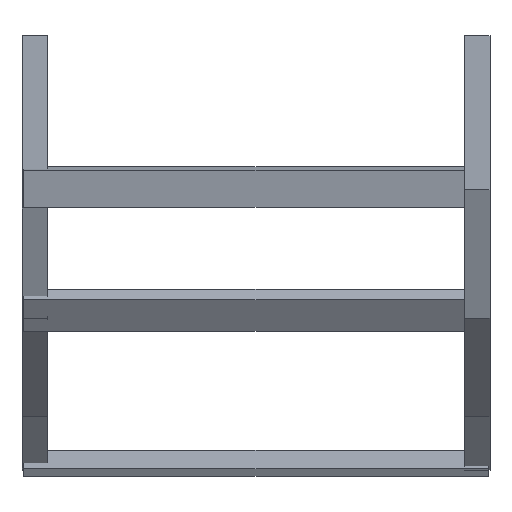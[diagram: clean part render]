
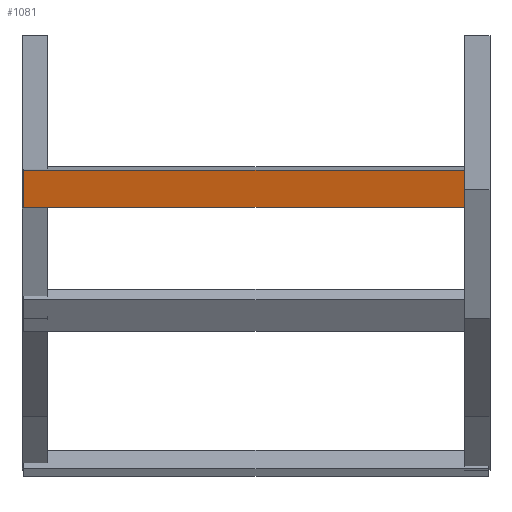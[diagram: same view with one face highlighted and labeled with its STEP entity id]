
A CAD part, front view. The second image highlights one B-rep face of the part: STEP entity #1081.
In plain terms, the highlighted planar face has unit normal (0, -0.981, -0.195) as drawn and (0, -1, 0) by its records, which use the part's own axes.
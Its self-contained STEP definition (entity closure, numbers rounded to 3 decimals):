
#14 = CARTESIAN_POINT ( 'NONE',  ( 248., 0., 20.25 ) ) ;
#68 = DIRECTION ( 'NONE',  ( 0., 0., 1. ) ) ;
#202 = EDGE_LOOP ( 'NONE', ( #1325, #1043, #554, #1566 ) ) ;
#238 = CARTESIAN_POINT ( 'NONE',  ( -248., 0., 20.25 ) ) ;
#240 = PLANE ( 'NONE',  #265 ) ;
#247 = DIRECTION ( 'NONE',  ( 0., 1., 0. ) ) ;
#265 = AXIS2_PLACEMENT_3D ( 'NONE', #1559, #247, #68 ) ;
#326 = VECTOR ( 'NONE', #831, 1000. ) ;
#379 = DIRECTION ( 'NONE',  ( -1., 0., 0. ) ) ;
#382 = FACE_OUTER_BOUND ( 'NONE', #202, .T. ) ;
#447 = LINE ( 'NONE', #1565, #326 ) ;
#552 = DIRECTION ( 'NONE',  ( -1., 0., 0. ) ) ;
#554 = ORIENTED_EDGE ( 'NONE', *, *, #641, .F. ) ;
#641 = EDGE_CURVE ( 'NONE', #1297, #1562, #1589, .T. ) ;
#686 = EDGE_CURVE ( 'NONE', #977, #1497, #447, .T. ) ;
#705 = CARTESIAN_POINT ( 'NONE',  ( 248., 0., -20.25 ) ) ;
#831 = DIRECTION ( 'NONE',  ( 0., 0., -1. ) ) ;
#839 = VECTOR ( 'NONE', #552, 1000. ) ;
#952 = CARTESIAN_POINT ( 'NONE',  ( -248., 0., -20.25 ) ) ;
#969 = VECTOR ( 'NONE', #1158, 1000. ) ;
#977 = VERTEX_POINT ( 'NONE', #238 ) ;
#1014 = EDGE_CURVE ( 'NONE', #1297, #977, #1706, .T. ) ;
#1043 = ORIENTED_EDGE ( 'NONE', *, *, #1659, .F. ) ;
#1081 = ADVANCED_FACE ( 'NONE', ( #382 ), #240, .F. ) ;
#1107 = CARTESIAN_POINT ( 'NONE',  ( 248., 0., 20.25 ) ) ;
#1158 = DIRECTION ( 'NONE',  ( 0., 0., -1. ) ) ;
#1248 = CARTESIAN_POINT ( 'NONE',  ( 248., 0., -20.25 ) ) ;
#1297 = VERTEX_POINT ( 'NONE', #1641 ) ;
#1325 = ORIENTED_EDGE ( 'NONE', *, *, #686, .T. ) ;
#1497 = VERTEX_POINT ( 'NONE', #952 ) ;
#1559 = CARTESIAN_POINT ( 'NONE',  ( 248., 0., 20.25 ) ) ;
#1562 = VERTEX_POINT ( 'NONE', #1248 ) ;
#1565 = CARTESIAN_POINT ( 'NONE',  ( -248., 0., 20.25 ) ) ;
#1566 = ORIENTED_EDGE ( 'NONE', *, *, #1014, .T. ) ;
#1589 = LINE ( 'NONE', #14, #969 ) ;
#1641 = CARTESIAN_POINT ( 'NONE',  ( 248., 0., 20.25 ) ) ;
#1659 = EDGE_CURVE ( 'NONE', #1562, #1497, #1881, .T. ) ;
#1706 = LINE ( 'NONE', #1107, #1735 ) ;
#1735 = VECTOR ( 'NONE', #379, 1000. ) ;
#1881 = LINE ( 'NONE', #705, #839 ) ;
